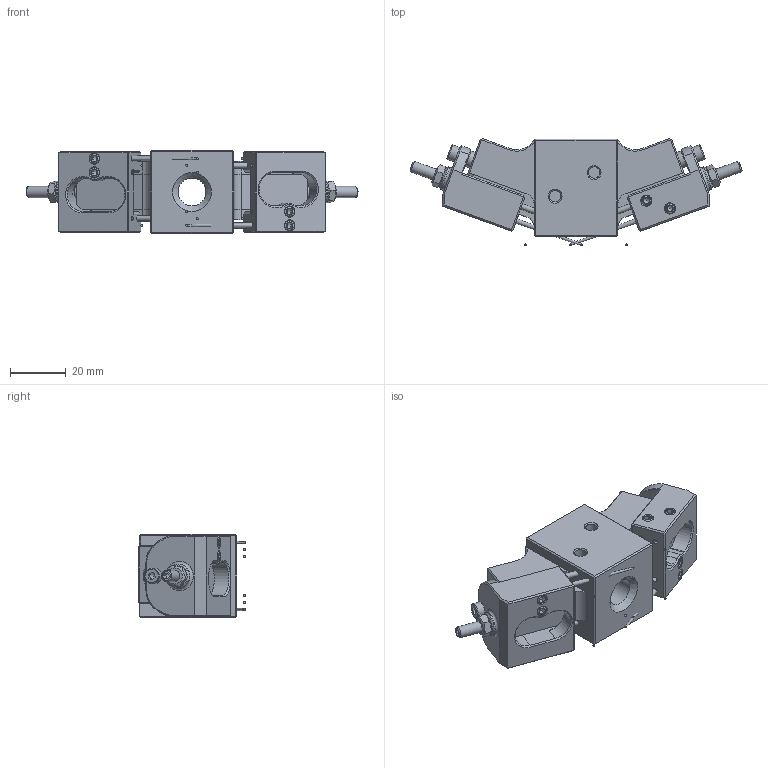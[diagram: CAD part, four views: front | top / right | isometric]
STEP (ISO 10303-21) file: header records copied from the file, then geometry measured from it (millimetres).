
FILE_DESCRIPTION(/* description */ ('NH2K-3'),/* implementation_level */ '2;1');
FILE_NAME(/* name */ 'NH2K-3.stp',/* time_stamp */ '2026-10-05T15:19:42+02:00',/* author */ ('Jensen'),/* organization */ (''),/* preprocessor_version */ 'ST-DEVELOPER v20.1',/* originating_system */ 'Autodesk Inventor 2026',/* authorisation */ '');
FILE_SCHEMA (('AUTOMOTIVE_DESIGN { 1 0 10303 214 3 1 1 }'));
Length unit declared in the file: millimetre
Products named in the file (4): NH2K-3; NH2K-3_body; NH2K_piston_rod; NH2K-3-needle_holder
Assembly tree (5 placements, depth 2):
  NH2K-3
    NH2K-3_body
    NH2K_piston_rod  x2
    NH2K-3-needle_holder  x2
Bounding box: 119.04 x 38.37 x 30 mm (x, y, z)
Volume: 62754 mm3; surface area: 23363.6 mm2
Topology: 5 solids, 5 shells, 473 faces, 1153 edges, 719 vertices
Faces by surface type: plane 290, cone 100, cylinder 67, bspline 10, torus 6
Full cylindrical faces by diameter (mm): 2 x4, 2.459 x2, 3 x2, 3.242 x4, 3.3 x2, 4 x4, 4.134 x2, 5.5 x2, 5.8 x2, 6 x2, 8.5 x2, 9.8 x2, 10 x3, 13 x4, 13.6 x2
Entity records: 8841 total; most frequent: CARTESIAN_POINT 1742, DIRECTION 1415, ORIENTED_EDGE 1394, EDGE_CURVE 697, AXIS2_PLACEMENT_3D 490, VERTEX_POINT 440, LINE 435, VECTOR 435
